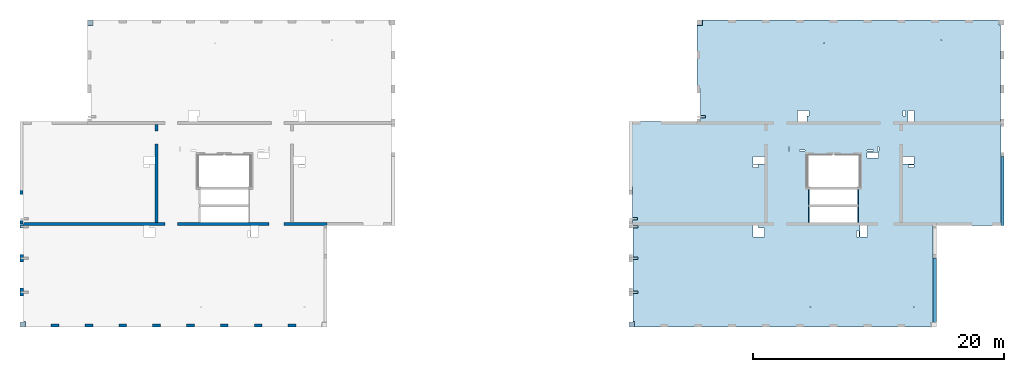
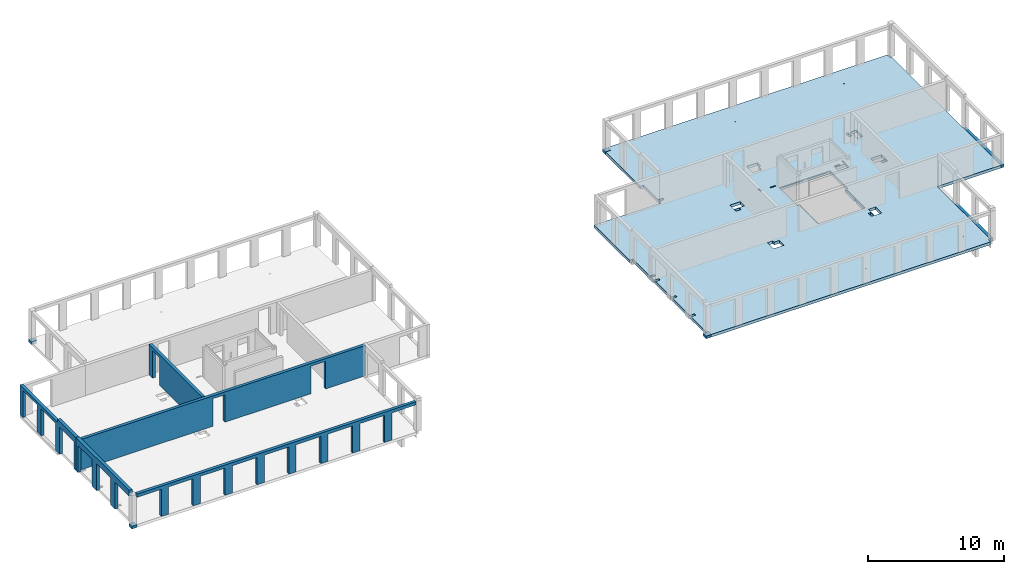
# One storey, part 2 of 9: 7 slabs, 5 walls, 53 openings.
"""IFC2X3 building model written with IfcOpenShell, lengths in millimetres."""

from ifc_helpers import new_model, entity, si_unit, converted_unit, derived_unit, direction, frame, frame_2d, origin, origin_2d_with_axis, place, context, subcontext, project, spatial, polyline, rectangle, circle, outline, extrude, material, layer, layer_set, layer_usage, type_object, element, save


model = new_model("IFC2X3")

# Units and contexts
model_context = context("Model", 3, precision=0.01, world=origin(), true_north=direction((6.12303176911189e-17, 1.0)))
body_context = subcontext(model_context, "Body", "Model", "MODEL_VIEW")
ifc_project = project(units=[si_unit("LENGTHUNIT", "METRE", prefix="MILLI"), si_unit("AREAUNIT", "SQUARE_METRE"), si_unit("VOLUMEUNIT", "CUBIC_METRE"), converted_unit("PLANEANGLEUNIT", "DEGREE", entity("IfcRatioMeasure", 0.0174532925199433), si_unit("PLANEANGLEUNIT", "RADIAN"), dimensions=[0, 0, 0, 0, 0, 0, 0]), si_unit("MASSUNIT", "GRAM", prefix="KILO"), derived_unit("MASSDENSITYUNIT", [(si_unit("MASSUNIT", "GRAM", prefix="KILO"), 1), (si_unit("LENGTHUNIT", "METRE"), -3)]), si_unit("TIMEUNIT", "SECOND"), si_unit("FREQUENCYUNIT", "HERTZ"), si_unit("THERMODYNAMICTEMPERATUREUNIT", "DEGREE_CELSIUS"), derived_unit("THERMALTRANSMITTANCEUNIT", [(si_unit("MASSUNIT", "GRAM", prefix="KILO"), 1), (si_unit("THERMODYNAMICTEMPERATUREUNIT", "KELVIN"), -1), (si_unit("TIMEUNIT", "SECOND"), -3)]), derived_unit("VOLUMETRICFLOWRATEUNIT", [(si_unit("LENGTHUNIT", "METRE"), 3), (si_unit("TIMEUNIT", "SECOND"), -1)]), si_unit("ELECTRICCURRENTUNIT", "AMPERE"), si_unit("ELECTRICVOLTAGEUNIT", "VOLT"), si_unit("POWERUNIT", "WATT"), si_unit("FORCEUNIT", "NEWTON", prefix="KILO"), si_unit("ILLUMINANCEUNIT", "LUX"), si_unit("LUMINOUSFLUXUNIT", "LUMEN"), si_unit("LUMINOUSINTENSITYUNIT", "CANDELA"), derived_unit("USERDEFINED", [(si_unit("MASSUNIT", "GRAM", prefix="KILO"), -1), (si_unit("LENGTHUNIT", "METRE"), -2), (si_unit("TIMEUNIT", "SECOND"), 3), (si_unit("LUMINOUSFLUXUNIT", "LUMEN"), 1)]), derived_unit("LINEARVELOCITYUNIT", [(si_unit("LENGTHUNIT", "METRE"), 1), (si_unit("TIMEUNIT", "SECOND"), -1)]), si_unit("PRESSUREUNIT", "PASCAL"), derived_unit("USERDEFINED", [(si_unit("LENGTHUNIT", "METRE"), -2), (si_unit("MASSUNIT", "GRAM", prefix="KILO"), 1), (si_unit("TIMEUNIT", "SECOND"), -2)])], contexts=[model_context])

# Site, building, storey
site_placement = place(None, origin())
site = spatial("IfcSite", under=ifc_project, at=site_placement, Name="Default", CompositionType="ELEMENT")
building_placement = place(site_placement, origin())
building = spatial("IfcBuilding", under=site, at=building_placement, Name="niet gebruiken", CompositionType="ELEMENT")
storey_placement = place(building_placement, frame((0.0, 0.0, 33390.0)))
storey = spatial("IfcBuildingStorey", under=building, at=storey_placement, Name="11 elfde verdieping", CompositionType="ELEMENT", Elevation=33390.0)

# Slab, openings
ifc_material_1 = material(Name="NLRS_f2_beton ihwg")
ifc_layer_1 = layer(ifc_material_1, 250.0)
ifc_layer_set_1 = layer_set([ifc_layer_1], Name="Floor:NLRS_23.21_FL_beton ihwg d=250_gen")
ifc_layer_usage_1 = layer_usage(ifc_layer_set_1, "AXIS3", "POSITIVE", 0.0)
slab_1_placement = place(storey_placement, frame((75750.0, 28756.0, -340.0)))
slab_1 = element("IfcSlab", 1, at=slab_1_placement, inside=storey, material=ifc_layer_usage_1, Name="Floor:NLRS_23.21_FL_beton ihwg d=250_gen", ObjectType="Floor:NLRS_23.21_FL_beton ihwg d=250_gen", PredefinedType="FLOOR", context=body_context, shape_type="SweptSolid", body=[
    extrude(outline(polyline([(9119.99996701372, 12250.0), (-14540.0, 12250.0), (-14540.0, 11840.0), (-14680.0, 11840.0), (-14680.0, 4060.0), (-14700.0, 4060.0), (-14700.0, -4150.0), (-9300.0, -4150.0), (-9300.0, -11890.0), (-9140.0, -11890.0), (-9140.0, -12250.0), (14520.0, -12250.0), (14520.0, -11820.0), (14660.0, -11820.0), (14660.0, -4060.0), (14680.0, -4060.0), (14680.0, -1040.0), (14950.0, -1040.0), (14950.0, 4150.0), (9280.0, 4150.0), (9280.0, 6750.0), (9550.0, 6750.0), (9550.0, 11820.0), (9119.99996701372, 11820.0), (9119.99996701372, 12250.0)])), frame((14700.0, 12250.0, 250.0), z_axis=(0.0, 0.0, -1.0), x_axis=(-1.0, 0.0, 0.0)), (0.0, 0.0, 1.0), 249.999999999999),
])
opening_1_placement = place(storey_placement, frame((75750.0, 28756.0, -340.0)))
element("IfcOpeningElement", 2, at=opening_1_placement, cuts=slab_1, ObjectType="Opening", context=body_context, shape_type="SweptSolid", body=[
    extrude(circle(Radius=37.5, at=frame_2d((-7750.0, -10650.0), x_axis=(1.0, 0.0))), frame((14700.0, 12250.0, 250.0), z_axis=(0.0, 0.0, -1.0), x_axis=(-1.0, 0.0, 0.0)), (0.0, 0.0, 1.0), 249.999999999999),
])
opening_2_placement = place(storey_placement, frame((75750.0, 28756.0, -340.0)))
element("IfcOpeningElement", 3, at=opening_2_placement, cuts=slab_1, ObjectType="Opening", context=body_context, shape_type="SweptSolid", body=[
    extrude(circle(Radius=37.5, at=frame_2d((-9950.0, 10650.0), x_axis=(1.0, 0.0))), frame((14700.0, 12250.0, 250.0), z_axis=(0.0, 0.0, -1.0), x_axis=(-1.0, 0.0, 0.0)), (0.0, 0.0, 1.0), 249.999999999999),
])
opening_3_placement = place(storey_placement, frame((75750.0, 28756.0, -340.0)))
element("IfcOpeningElement", 4, at=opening_3_placement, cuts=slab_1, ObjectType="Opening", context=body_context, shape_type="SweptSolid", body=[
    extrude(circle(Radius=37.5, at=frame_2d((-600.0, 10400.0), x_axis=(1.0, 0.0))), frame((14700.0, 12250.0, 250.0), z_axis=(0.0, 0.0, -1.0), x_axis=(-1.0, 0.0, 0.0)), (0.0, 0.0, 1.0), 249.999999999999),
])
opening_4_placement = place(storey_placement, frame((75750.0, 28756.0, -340.0)))
element("IfcOpeningElement", 5, at=opening_4_placement, cuts=slab_1, ObjectType="Opening", context=body_context, shape_type="SweptSolid", body=[
    extrude(circle(Radius=37.5, at=frame_2d((500.0, -10650.0), x_axis=(1.0, 0.0))), frame((14700.0, 12250.0, 250.0), z_axis=(0.0, 0.0, -1.0), x_axis=(-1.0, 0.0, 0.0)), (0.0, 0.0, 1.0), 249.999999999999),
])
opening_5_placement = place(slab_1_placement, origin())
element("IfcOpeningElement", 6, at=opening_5_placement, cuts=slab_1, ObjectType="Opening", context=body_context, shape_type="SweptSolid", body=[
    extrude(rectangle(XDim=109.999999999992, YDim=1220.0, at=origin_2d_with_axis()), frame((14094.9999671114, 10380.0, 210.0)), (0.0, 0.0, 1.0), 39.9999999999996),
])
opening_6_placement = place(slab_1_placement, origin())
element("IfcOpeningElement", 7, at=opening_6_placement, cuts=slab_1, ObjectType="Opening", context=body_context, shape_type="SweptSolid", body=[
    extrude(rectangle(XDim=109.999999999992, YDim=1220.0, at=origin_2d_with_axis()), frame((18005.0, 10380.0, 210.0)), (0.0, 0.0, 1.0), 39.9999999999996),
])
opening_7_placement = place(slab_1_placement, origin())
element("IfcOpeningElement", 8, at=opening_7_placement, cuts=slab_1, ObjectType="Opening", context=body_context, shape_type="SweptSolid", body=[
    extrude(rectangle(XDim=109.999999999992, YDim=1220.0, at=origin_2d_with_axis()), frame((18005.0, 8960.0, 210.0)), (0.0, 0.0, 1.0), 39.9999999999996),
])
opening_8_placement = place(slab_1_placement, origin())
element("IfcOpeningElement", 9, at=opening_8_placement, cuts=slab_1, ObjectType="Opening", context=body_context, shape_type="SweptSolid", body=[
    extrude(rectangle(XDim=109.999999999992, YDim=1220.0, at=origin_2d_with_axis()), frame((14094.9999671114, 8960.0, 210.0)), (0.0, 0.0, 1.0), 39.9999999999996),
])
opening_9_placement = place(slab_1_placement, origin())
element("IfcOpeningElement", 10, at=opening_9_placement, cuts=slab_1, ObjectType="Opening", context=body_context, shape_type="SweptSolid", body=[
    extrude(rectangle(XDim=400.000000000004, YDim=200.000000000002, at=origin_2d_with_axis()), frame((220.0, 8630.0, 220.0)), (0.0, 0.0, 1.0), 30.0000000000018),
])
opening_10_placement = place(slab_1_placement, origin())
element("IfcOpeningElement", 11, at=opening_10_placement, cuts=slab_1, ObjectType="Opening", context=body_context, shape_type="SweptSolid", body=[
    extrude(rectangle(XDim=200.000000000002, YDim=400.000000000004, at=origin_2d_with_axis()), frame((240.0, 8000.0, 220.0), z_axis=(0.0, 0.0, 1.0), x_axis=(0.0, -1.0, 0.0)), (0.0, 0.0, 1.0), 30.0000000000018),
])
opening_11_placement = place(slab_1_placement, origin())
element("IfcOpeningElement", 12, at=opening_11_placement, cuts=slab_1, ObjectType="Opening", context=body_context, shape_type="SweptSolid", body=[
    extrude(rectangle(XDim=200.000000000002, YDim=400.000000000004, at=origin_2d_with_axis()), frame((240.0, 5500.0, 220.0), z_axis=(0.0, 0.0, 1.0), x_axis=(0.0, -1.0, 0.0)), (0.0, 0.0, 1.0), 30.0000000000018),
])
opening_12_placement = place(slab_1_placement, origin())
element("IfcOpeningElement", 13, at=opening_12_placement, cuts=slab_1, ObjectType="Opening", context=body_context, shape_type="SweptSolid", body=[
    extrude(rectangle(XDim=200.000000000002, YDim=400.000000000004, at=origin_2d_with_axis()), frame((240.0, 2800.0, 220.0), z_axis=(0.0, 0.0, 1.0), x_axis=(0.0, -1.0, 0.0)), (0.0, 0.0, 1.0), 30.0000000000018),
])
opening_13_placement = place(slab_1_placement, origin())
element("IfcOpeningElement", 14, at=opening_13_placement, cuts=slab_1, ObjectType="Opening", context=body_context, shape_type="SweptSolid", body=[
    extrude(rectangle(XDim=399.999999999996, YDim=199.999999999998, at=origin_2d_with_axis()), frame((5620.0, 16765.0, 220.0)), (0.0, 0.0, 1.0), 30.0000000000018),
])
opening_14_placement = place(slab_1_placement, origin())
element("IfcOpeningElement", 15, at=opening_14_placement, cuts=slab_1, ObjectType="Opening", context=body_context, shape_type="SweptSolid", body=[
    extrude(rectangle(XDim=900.000000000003, YDim=730.000000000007, at=origin_2d_with_axis()), frame((13550.0, 16850.0, 0.0), z_axis=(0.0, 0.0, 1.0), x_axis=(0.0, 1.0, 0.0)), (0.0, 0.0, 1.0), 249.999999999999),
])
opening_15_placement = place(slab_1_placement, origin())
element("IfcOpeningElement", 16, at=opening_15_placement, cuts=slab_1, ObjectType="Opening", context=body_context, shape_type="SweptSolid", body=[
    extrude(rectangle(XDim=169.999999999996, YDim=450.000000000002, at=origin_2d_with_axis()), frame((14000.0, 17075.0, 0.0), z_axis=(0.0, 0.0, 1.0), x_axis=(-1.0, 0.0, 0.0)), (0.0, 0.0, 1.0), 249.999999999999),
])
opening_16_placement = place(slab_1_placement, origin())
element("IfcOpeningElement", 17, at=opening_16_placement, cuts=slab_1, ObjectType="Opening", context=body_context, shape_type="SweptSolid", body=[
    extrude(rectangle(XDim=900.000000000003, YDim=700.000000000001, at=origin_2d_with_axis()), frame((10075.0, 7550.0, 0.0), z_axis=(0.0, 0.0, 1.0), x_axis=(-1.0, 0.0, 0.0)), (0.0, 0.0, 1.0), 249.999999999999),
])
opening_17_placement = place(slab_1_placement, origin())
element("IfcOpeningElement", 18, at=opening_17_placement, cuts=slab_1, ObjectType="Opening", context=body_context, shape_type="SweptSolid", body=[
    extrude(rectangle(XDim=200.000000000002, YDim=450.000000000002, at=origin_2d_with_axis()), frame((9850.0, 8000.0, 0.0), z_axis=(0.0, 0.0, 1.0), x_axis=(0.0, -1.0, 0.0)), (0.0, 0.0, 1.0), 249.999999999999),
])
opening_18_placement = place(slab_1_placement, origin())
element("IfcOpeningElement", 19, at=opening_18_placement, cuts=slab_1, ObjectType="Opening", context=body_context, shape_type="SweptSolid", body=[
    extrude(rectangle(XDim=450.000000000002, YDim=900.000000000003, at=origin_2d_with_axis()), frame((19180.0, 13720.0, 0.0), z_axis=(0.0, 0.0, 1.0), x_axis=(0.0, -1.0, 0.0)), (0.0, 0.0, 1.0), 249.999999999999),
])
opening_19_placement = place(slab_1_placement, origin())
element("IfcOpeningElement", 20, at=opening_19_placement, cuts=slab_1, ObjectType="Opening", context=body_context, shape_type="SweptSolid", body=[
    extrude(rectangle(XDim=900.000000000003, YDim=600.000000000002, at=origin_2d_with_axis()), frame((10075.0, 13330.0, 0.0), z_axis=(0.0, 0.0, 1.0), x_axis=(-1.0, 0.0, 0.0)), (0.0, 0.0, 1.0), 249.999999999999),
])
opening_20_placement = place(slab_1_placement, origin())
element("IfcOpeningElement", 21, at=opening_20_placement, cuts=slab_1, ObjectType="Opening", context=body_context, shape_type="SweptSolid", body=[
    extrude(rectangle(XDim=900.000000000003, YDim=500.000000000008, at=origin_2d_with_axis()), frame((22225.0, 16850.0, 0.0), z_axis=(0.0, 0.0, 1.0), x_axis=(0.0, 1.0, 0.0)), (0.0, 0.0, 1.0), 249.999999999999),
])
opening_21_placement = place(slab_1_placement, origin())
element("IfcOpeningElement", 22, at=opening_21_placement, cuts=slab_1, ObjectType="Opening", context=body_context, shape_type="SweptSolid", body=[
    extrude(rectangle(XDim=899.999999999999, YDim=600.000000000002, at=origin_2d_with_axis()), frame((18479.9818996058, 7650.0, 0.0), z_axis=(0.0, 0.0, 1.0), x_axis=(0.0, 1.0, 0.0)), (0.0, 0.0, 1.0), 249.999999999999),
])
opening_22_placement = place(slab_1_placement, origin())
element("IfcOpeningElement", 23, at=opening_22_placement, cuts=slab_1, ObjectType="Opening", context=body_context, shape_type="SweptSolid", body=[
    extrude(rectangle(XDim=900.000000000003, YDim=600.000000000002, at=origin_2d_with_axis()), frame((22025.0, 13330.0, 0.0), z_axis=(0.0, 0.0, 1.0), x_axis=(-1.0, 0.0, 0.0)), (0.0, 0.0, 1.0), 249.999999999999),
])
opening_23_placement = place(slab_1_placement, origin())
element("IfcOpeningElement", 24, at=opening_23_placement, cuts=slab_1, ObjectType="Opening", context=body_context, shape_type="SweptSolid", body=[
    extrude(rectangle(XDim=1760.00000000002, YDim=23.0000000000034, at=origin_2d_with_axis()), frame((14994.9998491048, 13751.5, 180.0)), (0.0, 0.0, 1.0), 39.9999999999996),
])
opening_24_placement = place(slab_1_placement, origin())
element("IfcOpeningElement", 25, at=opening_24_placement, cuts=slab_1, ObjectType="Opening", context=body_context, shape_type="SweptSolid", body=[
    extrude(rectangle(XDim=1760.0, YDim=23.0000000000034, at=origin_2d_with_axis()), frame((17104.9998491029, 13751.5, 180.0)), (0.0, 0.0, 1.0), 39.9999999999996),
])
opening_25_placement = place(slab_1_placement, origin())
element("IfcOpeningElement", 26, at=opening_25_placement, cuts=slab_1, ObjectType="Opening", context=body_context, shape_type="SweptSolid", body=[
    extrude(rectangle(XDim=99.9999999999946, YDim=340.000000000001, at=origin_2d_with_axis()), frame((19615.0, 14210.0, 0.0), z_axis=(0.0, 0.0, 1.0), x_axis=(-1.0, 0.0, 0.0)), (0.0, 0.0, 1.0), 249.999999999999),
])
opening_26_placement = place(slab_1_placement, origin())
element("IfcOpeningElement", 27, at=opening_26_placement, cuts=slab_1, ObjectType="Opening", context=body_context, shape_type="SweptSolid", body=[
    extrude(rectangle(XDim=100.000000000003, YDim=490.00000000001, at=origin_2d_with_axis()), frame((18975.0, 14090.0, 0.0), z_axis=(0.0, 0.0, 1.0), x_axis=(0.0, -1.0, 0.0)), (0.0, 0.0, 1.0), 249.999999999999),
])
opening_27_placement = place(slab_1_placement, origin())
element("IfcOpeningElement", 28, at=opening_27_placement, cuts=slab_1, ObjectType="Opening", context=body_context, shape_type="SweptSolid", body=[
    extrude(rectangle(XDim=100.000000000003, YDim=440.000000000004, at=origin_2d_with_axis()), frame((13555.0, 14090.0, 0.0), z_axis=(0.0, 0.0, 1.0), x_axis=(0.0, -1.0, 0.0)), (0.0, 0.0, 1.0), 249.999999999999),
])
opening_28_placement = place(slab_1_placement, origin())
element("IfcOpeningElement", 29, at=opening_28_placement, cuts=slab_1, ObjectType="Opening", context=body_context, shape_type="SweptSolid", body=[
    extrude(rectangle(XDim=99.9999999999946, YDim=340.000000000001, at=origin_2d_with_axis()), frame((12505.0, 14210.0, 0.0), z_axis=(0.0, 0.0, 1.0), x_axis=(-1.0, 0.0, 0.0)), (0.0, 0.0, 1.0), 249.999999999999),
])
opening_29_placement = place(slab_1_placement, origin())
element("IfcOpeningElement", 30, at=opening_29_placement, cuts=slab_1, ObjectType="Opening", context=body_context, shape_type="SweptSolid", body=[
    extrude(rectangle(XDim=230.0, YDim=450.000000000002, at=origin_2d_with_axis()), frame((9850.00008659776, 12845.0002270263, 0.0), z_axis=(0.0, 0.0, 1.0), x_axis=(0.0, -1.0, 0.0)), (0.0, 0.0, 1.0), 249.999999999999),
])
opening_30_placement = place(slab_1_placement, origin())
element("IfcOpeningElement", 31, at=opening_30_placement, cuts=slab_1, ObjectType="Opening", context=body_context, shape_type="SweptSolid", body=[
    extrude(rectangle(XDim=220.000000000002, YDim=450.000000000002, at=origin_2d_with_axis()), frame((21685.0, 17075.0, 0.0), z_axis=(0.0, 0.0, 1.0), x_axis=(-1.0, 0.0, 0.0)), (0.0, 0.0, 1.0), 249.999999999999),
])
opening_31_placement = place(slab_1_placement, origin())
element("IfcOpeningElement", 32, at=opening_31_placement, cuts=slab_1, ObjectType="Opening", context=body_context, shape_type="SweptSolid", body=[
    extrude(rectangle(XDim=220.000000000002, YDim=450.000000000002, at=origin_2d_with_axis()), frame((22250.0, 12840.0, 0.0), z_axis=(0.0, 0.0, 1.0), x_axis=(0.0, -1.0, 0.0)), (0.0, 0.0, 1.0), 249.999999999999),
])
opening_32_placement = place(slab_1_placement, origin())
element("IfcOpeningElement", 33, at=opening_32_placement, cuts=slab_1, ObjectType="Opening", context=body_context, shape_type="SweptSolid", body=[
    extrude(rectangle(XDim=220.000000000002, YDim=450.000000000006, at=origin_2d_with_axis()), frame((17990.0, 7425.0, 0.0)), (0.0, 0.0, 1.0), 249.999999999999),
])
opening_33_placement = place(slab_1_placement, frame((16050.0, 10378.7499999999, 250.0)))
element("IfcOpeningElement", 34, at=opening_33_placement, cuts=slab_1, Name="Floor:NLRS_23.21_FL_beton ihwg d=250_gen:2", ObjectType="Opening", context=body_context, shape_type="SweptSolid", body=[
    extrude(outline(polyline([(-1899.99998355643, -2028.75), (1900.00001644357, -2028.75), (1900.00001644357, -808.749999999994), (1999.99998355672, -808.749999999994), (1999.99998355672, -608.749999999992), (1900.00001644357, -608.749999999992), (1900.00001644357, 751.250000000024), (2134.99998355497, 751.250000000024), (2134.99998355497, 3361.24999999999), (-2135.0000164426, 3361.24999999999), (-2135.0000164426, 751.250000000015), (-1899.99998355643, 751.250000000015), (-1899.99998355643, -608.750000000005), (-2000.00001644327, -608.750000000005), (-2000.00001644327, -808.750000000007), (-1899.99998355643, -808.750000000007), (-1899.99998355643, -2028.75)])), frame((0.0, 0.0, 0.0), z_axis=(0.0, 0.0, -1.0), x_axis=(-1.0, 0.0, 0.0)), (0.0, 0.0, 1.0), 249.999999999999),
])

# Slabs
ifc_layer_usage_2 = layer_usage(ifc_layer_set_1, "AXIS3", "POSITIVE", 0.0)
slab_2_placement = place(storey_placement, origin())
element("IfcSlab", 35, at=slab_2_placement, inside=storey, material=ifc_layer_usage_2, Name="Floor:NLRS_23.21_FL_beton ihwg d=250_gen", ObjectType="Floor:NLRS_23.21_FL_beton ihwg d=250_gen", PredefinedType="FLOOR", context=body_context, shape_type="SweptSolid", body=[
    extrude(rectangle(XDim=5140.00000000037, YDim=250.000065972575, at=frame_2d((-2.27373675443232e-12, 0.0), x_axis=(1.0, 0.0))), frame((99875.0, 31686.0, -90.0), z_axis=(0.0, 0.0, -1.0), x_axis=(0.0, 1.0, 0.0)), (0.0, 0.0, 1.0), 249.999999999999),
])
ifc_layer_usage_3 = layer_usage(ifc_layer_set_1, "AXIS3", "POSITIVE", 0.0)
slab_3_placement = place(storey_placement, origin())
element("IfcSlab", 36, at=slab_3_placement, inside=storey, material=ifc_layer_usage_3, Name="Floor:NLRS_23.21_FL_beton ihwg d=250_gen", ObjectType="Floor:NLRS_23.21_FL_beton ihwg d=250_gen", PredefinedType="FLOOR", context=body_context, shape_type="SweptSolid", body=[
    extrude(rectangle(XDim=5500.00000000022, YDim=250.000000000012, at=origin_2d_with_axis()), frame((105275.0, 39606.0, -90.0), z_axis=(0.0, 0.0, -1.0), x_axis=(0.0, 1.0, 0.0)), (0.0, 0.0, 1.0), 249.999999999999),
])
ifc_layer_usage_4 = layer_usage(ifc_layer_set_1, "AXIS3", "POSITIVE", 0.0)
slab_4_placement = place(storey_placement, origin())
element("IfcSlab", 37, at=slab_4_placement, inside=storey, material=ifc_layer_usage_4, Name="Floor:NLRS_23.21_FL_beton ihwg d=250_gen", ObjectType="Floor:NLRS_23.21_FL_beton ihwg d=250_gen", PredefinedType="FLOOR", context=body_context, shape_type="SweptSolid", body=[
    extrude(outline(polyline([(-280.0, -240.0), (130.0, -240.0), (130.0, 50.0), (150.0, 50.0), (150.0, 190.0), (-280.0, 190.0), (-280.0, -240.0)])), frame((75740.0, 29036.0, -90.0), z_axis=(0.0, 0.0, -1.0), x_axis=(0.0, 1.0, 0.0)), (0.0, 0.0, 1.0), 249.999999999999),
])
ifc_layer_usage_5 = layer_usage(ifc_layer_set_1, "AXIS3", "POSITIVE", 0.0)
slab_5_placement = place(storey_placement, origin())
element("IfcSlab", 38, at=slab_5_placement, inside=storey, material=ifc_layer_usage_5, Name="Floor:NLRS_23.21_FL_beton ihwg d=250_gen", ObjectType="Floor:NLRS_23.21_FL_beton ihwg d=250_gen", PredefinedType="FLOOR", context=body_context, shape_type="SweptSolid", body=[
    extrude(outline(polyline([(-280.0, -240.0), (130.0, -240.0), (130.0, 50.0), (150.0, 50.0), (150.0, 190.0), (-280.0, 190.0), (-280.0, -240.0)])), frame((27140.0, 29036.0, -90.0), z_axis=(0.0, 0.0, -1.0), x_axis=(0.0, 1.0, 0.0)), (0.0, 0.0, 1.0), 249.999999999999),
])
ifc_layer_usage_6 = layer_usage(ifc_layer_set_1, "AXIS3", "POSITIVE", 0.0)
slab_6_placement = place(storey_placement, origin())
element("IfcSlab", 39, at=slab_6_placement, inside=storey, material=ifc_layer_usage_6, Name="Floor:NLRS_23.21_FL_beton ihwg d=250_gen", ObjectType="Floor:NLRS_23.21_FL_beton ihwg d=250_gen", PredefinedType="FLOOR", context=body_context, shape_type="SweptSolid", body=[
    extrude(rectangle(XDim=429.999999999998, YDim=430.000032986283, at=frame_2d((4.33431068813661e-12, 2.1600499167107e-12), x_axis=(1.0, 0.0))), frame((32515.0, 53041.0, -90.0), z_axis=(0.0, 0.0, -1.0), x_axis=(0.0, 1.0, 0.0)), (0.0, 0.0, 1.0), 249.999999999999),
])
ifc_layer_usage_7 = layer_usage(ifc_layer_set_1, "AXIS3", "POSITIVE", 0.0)
slab_7_placement = place(storey_placement, origin())
element("IfcSlab", 40, at=slab_7_placement, inside=storey, material=ifc_layer_usage_7, Name="Floor:NLRS_23.21_FL_beton ihwg d=250_gen", ObjectType="Floor:NLRS_23.21_FL_beton ihwg d=250_gen", PredefinedType="FLOOR", context=body_context, shape_type="SweptSolid", body=[
    extrude(rectangle(XDim=429.999999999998, YDim=430.000032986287, at=frame_2d((-4.33431068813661e-12, 0.0), x_axis=(1.0, 0.0))), frame((81115.0, 53041.0, -90.0), z_axis=(0.0, 0.0, -1.0), x_axis=(0.0, 1.0, 0.0)), (0.0, 0.0, 1.0), 249.999999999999),
])

# Wall, openings
ifc_layer_2 = layer(ifc_material_1, 250.0)
ifc_layer_set_2 = layer_set([ifc_layer_2], Name="Basic Wall:NLRS_22.21_WA_beton ihwg d=250_gen")
ifc_layer_usage_8 = layer_usage(ifc_layer_set_2, "AXIS2", "NEGATIVE", 125.0)
wall_type_1 = type_object("IfcWallType", Name="Basic Wall:NLRS_22.21_WA_beton ihwg d=250_gen", PredefinedType="STANDARD", material=ifc_layer_set_2)
wall_1_placement = place(storey_placement, frame((27170.0, 36981.0, -90.0)))
wall_1 = element("IfcWallStandardCase", 41, at=wall_1_placement, inside=storey, type_object=wall_type_1, material=ifc_layer_usage_8, Name="Basic Wall:NLRS_22.21_WA_beton ihwg d=250_gen", ObjectType="Basic Wall:NLRS_22.21_WA_beton ihwg d=250_gen", context=body_context, shape_type="SweptSolid", body=[
    extrude(rectangle(XDim=24230.0000000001, YDim=250.000000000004, at=frame_2d((12115.0, 0.0), x_axis=(-1.0, 0.0))), origin(), (0.0, 0.0, 1.0), 2719.99999999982),
])
opening_34_placement = place(wall_1_placement, origin())
element("IfcOpeningElement", 42, at=opening_34_placement, cuts=wall_1, Name="Basic Wall:NLRS_22.21_WA_beton ihwg d=250_gen", ObjectType="Opening", context=body_context, shape_type="SweptSolid", body=[
    extrude(rectangle(XDim=2470.0, YDim=1225.0, at=frame_2d((0.0, 4.43378667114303e-12), x_axis=(0.0, 1.0))), frame((20192.500000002, -1399.0, 1235.0), z_axis=(0.0, 1.0, 0.0), x_axis=(-1.0, 0.0, 0.0)), (0.0, 0.0, 1.0), 3048.0),
])
opening_35_placement = place(wall_1_placement, origin())
element("IfcOpeningElement", 43, at=opening_35_placement, cuts=wall_1, Name="Basic Wall:NLRS_22.21_WA_beton ihwg d=250_gen", ObjectType="Opening", context=body_context, shape_type="SweptSolid", body=[
    extrude(rectangle(XDim=2470.0, YDim=1006.0, at=frame_2d((2.1600499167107e-12, 0.0), x_axis=(0.0, 1.0))), frame((11782.0, -1399.0, 1235.0), z_axis=(0.0, 1.0, 0.0), x_axis=(-1.0, 0.0, 0.0)), (0.0, 0.0, 1.0), 3048.0),
])
opening_36_placement = place(wall_1_placement, origin())
element("IfcOpeningElement", 44, at=opening_36_placement, cuts=wall_1, Name="Basic Wall:NLRS_22.21_WA_beton ihwg d=250_gen", ObjectType="Recess", context=body_context, shape_type="SweptSolid", body=[
    extrude(rectangle(XDim=55000.0, YDim=20.0000000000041, at=frame_2d((0.0, -2.16626716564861e-12), x_axis=(1.0, 0.0))), frame((10.0, -140.0, 6710.0), z_axis=(0.0, 1.0, 0.0), x_axis=(0.0, 0.0, -1.0)), (0.0, 0.0, 1.0), 124.999999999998),
])

# Wall, opening
ifc_layer_usage_9 = layer_usage(ifc_layer_set_2, "AXIS2", "NEGATIVE", 125.0)
wall_2_placement = place(storey_placement, frame((37800.0, 44906.0, -90.0), z_axis=(0.0, 0.0, 1.0), x_axis=(0.0, -1.0, 0.0)))
wall_2 = element("IfcWallStandardCase", 45, at=wall_2_placement, inside=storey, type_object=wall_type_1, material=ifc_layer_usage_9, Name="Basic Wall:NLRS_22.21_WA_beton ihwg d=250_gen", ObjectType="Basic Wall:NLRS_22.21_WA_beton ihwg d=250_gen", context=body_context, shape_type="SweptSolid", body=[
    extrude(rectangle(XDim=7799.99999999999, YDim=250.000000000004, at=frame_2d((3900.0, 0.0), x_axis=(-1.0, 0.0))), origin(), (0.0, 0.0, 1.0), 2719.99999999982),
])
opening_37_placement = place(wall_2_placement, origin())
element("IfcOpeningElement", 46, at=opening_37_placement, cuts=wall_2, Name="Basic Wall:NLRS_22.21_WA_beton ihwg d=250_gen", ObjectType="Opening", context=body_context, shape_type="SweptSolid", body=[
    extrude(rectangle(XDim=2470.0, YDim=1006.0, at=frame_2d((4.43378667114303e-12, 0.0), x_axis=(1.0, 0.0))), frame((1027.0, -1649.0, 1235.0), z_axis=(0.0, 1.0, 0.0), x_axis=(0.0, 0.0, 1.0)), (0.0, 0.0, 1.0), 3048.0),
])

# Wall, openings
ifc_material_2 = material(Name="NLRS_f2_beton prefab")
ifc_layer_3 = layer(ifc_material_2, 250.0)
ifc_layer_set_3 = layer_set([ifc_layer_3], Name="Basic Wall:NLRS_21.21_WA_beton prefab d=250_gen")
ifc_layer_usage_10 = layer_usage(ifc_layer_set_3, "AXIS2", "NEGATIVE", 125.0)
wall_type_2 = type_object("IfcWallType", Name="Basic Wall:NLRS_21.21_WA_beton prefab d=250_gen", PredefinedType="STANDARD", material=ifc_layer_set_3)
wall_3_placement = place(storey_placement, frame((27025.0, 45156.0, -70.0), z_axis=(0.0, 0.0, 1.0), x_axis=(0.0, -1.0, 0.0)))
wall_3 = element("IfcWallStandardCase", 47, at=wall_3_placement, inside=storey, type_object=wall_type_2, material=ifc_layer_usage_10, Name="Basic Wall:NLRS_21.21_WA_beton prefab d=250_gen", ObjectType="Basic Wall:NLRS_21.21_WA_beton prefab d=250_gen", context=body_context, shape_type="SweptSolid", body=[
    extrude(rectangle(XDim=8189.99999999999, YDim=250.000000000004, at=frame_2d((4095.0, 0.0), x_axis=(-1.0, 0.0))), origin(), (0.0, 0.0, 1.0), 2949.99999999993),
])
opening_38_placement = place(wall_3_placement, origin())
element("IfcOpeningElement", 48, at=opening_38_placement, cuts=wall_3, Name="Basic Wall:NLRS_21.21_WA_beton prefab d=250_gen", ObjectType="Opening", context=body_context, shape_type="SweptSolid", body=[
    extrude(rectangle(XDim=2420.0, YDim=2080.0, at=frame_2d((0.0, 2.1600499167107e-12), x_axis=(0.0, 1.0))), frame((1450.0, -1399.0, 1210.0), z_axis=(0.0, 1.0, 0.0), x_axis=(-1.0, 0.0, 0.0)), (0.0, 0.0, 1.0), 3048.0),
])
opening_39_placement = place(wall_3_placement, origin())
element("IfcOpeningElement", 49, at=opening_39_placement, cuts=wall_3, Name="Basic Wall:NLRS_21.21_WA_beton prefab d=250_gen", ObjectType="Opening", context=body_context, shape_type="SweptSolid", body=[
    extrude(rectangle(XDim=2420.0, YDim=2080.0, at=frame_2d((0.0, 2.1600499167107e-12), x_axis=(0.0, 1.0))), frame((4150.0, -1399.0, 1210.0), z_axis=(0.0, 1.0, 0.0), x_axis=(-1.0, 0.0, 0.0)), (0.0, 0.0, 1.0), 3048.0),
])
opening_40_placement = place(wall_3_placement, origin())
element("IfcOpeningElement", 50, at=opening_40_placement, cuts=wall_3, Name="Basic Wall:NLRS_21.21_WA_beton prefab d=250_gen", ObjectType="Opening", context=body_context, shape_type="SweptSolid", body=[
    extrude(rectangle(XDim=2420.0, YDim=2080.0, at=frame_2d((0.0, -2.1600499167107e-12), x_axis=(0.0, 1.0))), frame((6850.0, -1399.0, 1210.0), z_axis=(0.0, 1.0, 0.0), x_axis=(-1.0, 0.0, 0.0)), (0.0, 0.0, 1.0), 3048.0),
])
opening_41_placement = place(wall_3_placement, origin())
element("IfcOpeningElement", 51, at=opening_41_placement, cuts=wall_3, Name="Basic Wall:NLRS_21.21_WA_beton prefab d=250_gen", ObjectType="Opening", context=body_context, shape_type="SweptSolid", body=[
    extrude(rectangle(XDim=250.000000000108, YDim=5499.99999999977, at=frame_2d((0.0, 0.0), x_axis=(0.0, 1.0))), frame((2750.0, 125.0, 2825.0), z_axis=(0.0, -1.0, 0.0), x_axis=(-1.0, 0.0, 0.0)), (0.0, 0.0, 1.0), 250.0),
])

ifc_layer_4 = layer(ifc_material_1, 250.0)
ifc_layer_set_4 = layer_set([ifc_layer_4], Name="Basic Wall:NLRS_21.21_WA_beton ihwg d=250_gen")
ifc_layer_usage_11 = layer_usage(ifc_layer_set_4, "AXIS2", "NEGATIVE", 125.0)
wall_type_3 = type_object("IfcWallType", Name="Basic Wall:NLRS_21.21_WA_beton ihwg d=250_gen", PredefinedType="STANDARD", material=ifc_layer_set_4)
wall_4_placement = place(storey_placement, frame((27330.0, 28881.0, -90.0)))
wall_4 = element("IfcWallStandardCase", 52, at=wall_4_placement, inside=storey, type_object=wall_type_3, material=ifc_layer_usage_11, Name="Basic Wall:NLRS_21.21_WA_beton ihwg d=250_gen", ObjectType="Basic Wall:NLRS_21.21_WA_beton ihwg d=250_gen", context=body_context, shape_type="SweptSolid", body=[
    extrude(rectangle(XDim=23640.0000000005, YDim=250.000000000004, at=frame_2d((11820.0000000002, -8.66862137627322e-13), x_axis=(-1.0, 0.0))), origin(), (0.0, 0.0, 1.0), 2720.00000000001),
])
opening_42_placement = place(wall_4_placement, origin())
element("IfcOpeningElement", 53, at=opening_42_placement, cuts=wall_4, Name="Basic Wall:NLRS_21.21_WA_beton ihwg d=250_gen", ObjectType="Opening", context=body_context, shape_type="SweptSolid", body=[
    extrude(rectangle(XDim=2440.0, YDim=2080.0, at=frame_2d((0.0, -2.1600499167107e-12), x_axis=(0.0, 1.0))), frame((22620.0, -1399.0, 1220.0), z_axis=(0.0, 1.0, 0.0), x_axis=(-1.0, 0.0, 0.0)), (0.0, 0.0, 1.0), 3048.0),
])
opening_43_placement = place(wall_4_placement, origin())
element("IfcOpeningElement", 54, at=opening_43_placement, cuts=wall_4, Name="Basic Wall:NLRS_21.21_WA_beton ihwg d=250_gen", ObjectType="Opening", context=body_context, shape_type="SweptSolid", body=[
    extrude(rectangle(XDim=2440.0, YDim=2080.0, at=frame_2d((0.0, 0.0), x_axis=(0.0, 1.0))), frame((19920.0, -1399.0, 1220.0), z_axis=(0.0, 1.0, 0.0), x_axis=(-1.0, 0.0, 0.0)), (0.0, 0.0, 1.0), 3048.0),
])
opening_44_placement = place(wall_4_placement, origin())
element("IfcOpeningElement", 55, at=opening_44_placement, cuts=wall_4, Name="Basic Wall:NLRS_21.21_WA_beton ihwg d=250_gen", ObjectType="Opening", context=body_context, shape_type="SweptSolid", body=[
    extrude(rectangle(XDim=2440.0, YDim=2080.0, at=frame_2d((0.0, -2.1600499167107e-12), x_axis=(0.0, 1.0))), frame((17220.0, -1399.0, 1220.0), z_axis=(0.0, 1.0, 0.0), x_axis=(-1.0, 0.0, 0.0)), (0.0, 0.0, 1.0), 3048.0),
])
opening_45_placement = place(wall_4_placement, origin())
element("IfcOpeningElement", 56, at=opening_45_placement, cuts=wall_4, Name="Basic Wall:NLRS_21.21_WA_beton ihwg d=250_gen", ObjectType="Opening", context=body_context, shape_type="SweptSolid", body=[
    extrude(rectangle(XDim=2440.0, YDim=2080.0, at=frame_2d((0.0, 0.0), x_axis=(0.0, 1.0))), frame((14520.0, -1399.0, 1220.0), z_axis=(0.0, 1.0, 0.0), x_axis=(-1.0, 0.0, 0.0)), (0.0, 0.0, 1.0), 3048.0),
])
opening_46_placement = place(wall_4_placement, origin())
element("IfcOpeningElement", 57, at=opening_46_placement, cuts=wall_4, Name="Basic Wall:NLRS_21.21_WA_beton ihwg d=250_gen", ObjectType="Opening", context=body_context, shape_type="SweptSolid", body=[
    extrude(rectangle(XDim=2440.0, YDim=2080.0, at=frame_2d((-4.32009983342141e-12, -2.1600499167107e-12), x_axis=(0.0, 1.0))), frame((11820.0, -1399.0, 1220.0), z_axis=(0.0, 1.0, 0.0), x_axis=(-1.0, 0.0, 0.0)), (0.0, 0.0, 1.0), 3048.0),
])
opening_47_placement = place(wall_4_placement, origin())
element("IfcOpeningElement", 58, at=opening_47_placement, cuts=wall_4, Name="Basic Wall:NLRS_21.21_WA_beton ihwg d=250_gen", ObjectType="Opening", context=body_context, shape_type="SweptSolid", body=[
    extrude(rectangle(XDim=2440.0, YDim=2080.0, at=frame_2d((-2.1600499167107e-12, 0.0), x_axis=(0.0, 1.0))), frame((9120.0, -1399.0, 1220.0), z_axis=(0.0, 1.0, 0.0), x_axis=(-1.0, 0.0, 0.0)), (0.0, 0.0, 1.0), 3048.0),
])
opening_48_placement = place(wall_4_placement, origin())
element("IfcOpeningElement", 59, at=opening_48_placement, cuts=wall_4, Name="Basic Wall:NLRS_21.21_WA_beton ihwg d=250_gen", ObjectType="Opening", context=body_context, shape_type="SweptSolid", body=[
    extrude(rectangle(XDim=2440.0, YDim=2080.0, at=frame_2d((2.1600499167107e-12, 2.1600499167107e-12), x_axis=(0.0, 1.0))), frame((6420.0, -1399.0, 1220.0), z_axis=(0.0, 1.0, 0.0), x_axis=(-1.0, 0.0, 0.0)), (0.0, 0.0, 1.0), 3048.0),
])
opening_49_placement = place(wall_4_placement, origin())
element("IfcOpeningElement", 60, at=opening_49_placement, cuts=wall_4, Name="Basic Wall:NLRS_21.21_WA_beton ihwg d=250_gen", ObjectType="Opening", context=body_context, shape_type="SweptSolid", body=[
    extrude(rectangle(XDim=2440.0, YDim=2080.0, at=frame_2d((2.1600499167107e-12, 0.0), x_axis=(0.0, 1.0))), frame((3720.0, -1399.0, 1220.0), z_axis=(0.0, 1.0, 0.0), x_axis=(-1.0, 0.0, 0.0)), (0.0, 0.0, 1.0), 3048.0),
])
opening_50_placement = place(wall_4_placement, origin())
element("IfcOpeningElement", 61, at=opening_50_placement, cuts=wall_4, Name="Basic Wall:NLRS_21.21_WA_beton ihwg d=250_gen", ObjectType="Opening", context=body_context, shape_type="SweptSolid", body=[
    extrude(rectangle(XDim=2440.0, YDim=2080.0, at=frame_2d((-2.1600499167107e-12, -2.1600499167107e-12), x_axis=(0.0, 1.0))), frame((1020.0, -1399.0, 1220.0), z_axis=(0.0, 1.0, 0.0), x_axis=(-1.0, 0.0, 0.0)), (0.0, 0.0, 1.0), 3048.0),
])

ifc_layer_5 = layer(ifc_material_2, 270.0)
ifc_layer_set_5 = layer_set([ifc_layer_5], Name="Basic Wall:NLRS_21.21_WA_beton prefab d=270_gen")
ifc_layer_usage_12 = layer_usage(ifc_layer_set_5, "AXIS2", "NEGATIVE", 135.0)
wall_type_4 = type_object("IfcWallType", Name="Basic Wall:NLRS_21.21_WA_beton prefab d=270_gen", PredefinedType="STANDARD", material=ifc_layer_set_5)
wall_5_placement = place(storey_placement, frame((27035.0, 36946.0, -70.0), z_axis=(0.0, 0.0, 1.0), x_axis=(0.0, -1.0, 0.0)))
wall_5 = element("IfcWallStandardCase", 62, at=wall_5_placement, inside=storey, type_object=wall_type_4, material=ifc_layer_usage_12, Name="Basic Wall:NLRS_21.21_WA_beton prefab d=270_gen", ObjectType="Basic Wall:NLRS_21.21_WA_beton prefab d=270_gen", context=body_context, shape_type="SweptSolid", body=[
    extrude(rectangle(XDim=7779.99999999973, YDim=269.999999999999, at=frame_2d((3889.99999999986, 0.0), x_axis=(-1.0, 0.0))), origin(), (0.0, 0.0, 1.0), 2949.99999999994),
])
opening_51_placement = place(wall_5_placement, origin())
element("IfcOpeningElement", 63, at=opening_51_placement, cuts=wall_5, Name="Basic Wall:NLRS_21.21_WA_beton prefab d=270_gen", ObjectType="Opening", context=body_context, shape_type="SweptSolid", body=[
    extrude(rectangle(XDim=2420.0, YDim=2080.0, at=frame_2d((-2.1600499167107e-12, 2.1600499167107e-12), x_axis=(0.0, 1.0))), frame((1340.0, -1389.0, 1210.0), z_axis=(0.0, 1.0, 0.0), x_axis=(-1.0, 0.0, 0.0)), (0.0, 0.0, 1.0), 3048.0),
])
opening_52_placement = place(wall_5_placement, origin())
element("IfcOpeningElement", 64, at=opening_52_placement, cuts=wall_5, Name="Basic Wall:NLRS_21.21_WA_beton prefab d=270_gen", ObjectType="Opening", context=body_context, shape_type="SweptSolid", body=[
    extrude(rectangle(XDim=2420.0, YDim=2080.0, at=frame_2d((2.1600499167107e-12, 2.1600499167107e-12), x_axis=(0.0, 1.0))), frame((4040.0, -1389.0, 1210.0), z_axis=(0.0, 1.0, 0.0), x_axis=(-1.0, 0.0, 0.0)), (0.0, 0.0, 1.0), 3048.0),
])
opening_53_placement = place(wall_5_placement, origin())
element("IfcOpeningElement", 65, at=opening_53_placement, cuts=wall_5, Name="Basic Wall:NLRS_21.21_WA_beton prefab d=270_gen", ObjectType="Opening", context=body_context, shape_type="SweptSolid", body=[
    extrude(rectangle(XDim=2420.0, YDim=2080.0, at=frame_2d((2.1600499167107e-12, -2.1600499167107e-12), x_axis=(0.0, 1.0))), frame((6740.0, -1389.0, 1210.0), z_axis=(0.0, 1.0, 0.0), x_axis=(-1.0, 0.0, 0.0)), (0.0, 0.0, 1.0), 3048.0),
])

save(model, "model.ifc")
